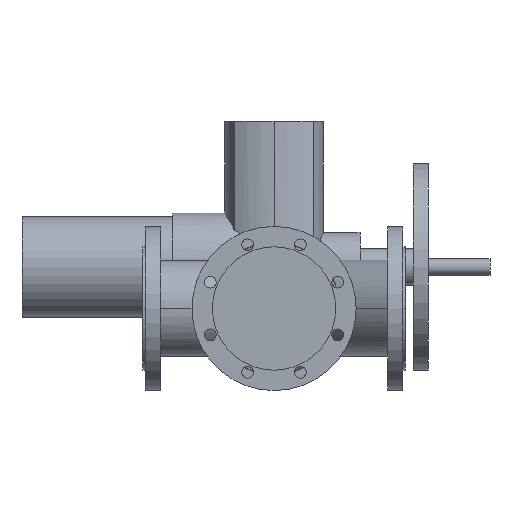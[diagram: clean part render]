
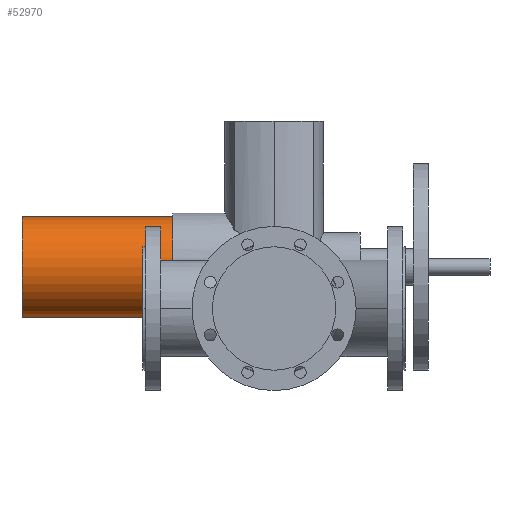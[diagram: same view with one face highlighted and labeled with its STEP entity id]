
A CAD part, front view. The second image highlights one B-rep face of the part: STEP entity #52970.
In plain terms, the highlighted cylindrical face has radius 76.5 mm (diameter 153 mm), a partial arc.
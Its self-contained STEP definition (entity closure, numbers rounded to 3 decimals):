
#52560=CARTESIAN_POINT('',(-69.,674.,63.));
#52570=DIRECTION('',(1.,0.,0.));
#52580=DIRECTION('',(0.,0.,-1.));
#52590=AXIS2_PLACEMENT_3D('',#52560,#52570,#52580);
#52600=CYLINDRICAL_SURFACE('',#52590,76.5);
#52610=CARTESIAN_POINT('',(-69.,674.,-13.5));
#52620=DIRECTION('',(1.,0.,0.));
#52630=VECTOR('',#52620,1.);
#52640=LINE('',#52610,#52630);
#52650=CARTESIAN_POINT('',(-184.,674.,-13.5));
#52660=VERTEX_POINT('',#52650);
#52670=CARTESIAN_POINT('',(46.,674.,-13.5));
#52680=VERTEX_POINT('',#52670);
#52690=EDGE_CURVE('',#52660,#52680,#52640,.T.);
#52700=ORIENTED_EDGE('',*,*,#52690,.T.);
#52710=CARTESIAN_POINT('',(-184.,674.,63.));
#52720=DIRECTION('',(-1.,0.,0.));
#52730=DIRECTION('',(0.,0.,-1.));
#52740=AXIS2_PLACEMENT_3D('',#52710,#52720,#52730);
#52750=CIRCLE('',#52740,76.5);
#52760=CARTESIAN_POINT('',(-184.,674.,139.5));
#52770=VERTEX_POINT('',#52760);
#52780=EDGE_CURVE('',#52660,#52770,#52750,.T.);
#52790=ORIENTED_EDGE('',*,*,#52780,.F.);
#52800=CARTESIAN_POINT('',(-69.,674.,139.5));
#52810=DIRECTION('',(1.,0.,0.));
#52820=VECTOR('',#52810,1.);
#52830=LINE('',#52800,#52820);
#52840=CARTESIAN_POINT('',(46.,674.,139.5));
#52850=VERTEX_POINT('',#52840);
#52860=EDGE_CURVE('',#52770,#52850,#52830,.T.);
#52870=ORIENTED_EDGE('',*,*,#52860,.F.);
#52880=CARTESIAN_POINT('',(46.,674.,63.));
#52890=DIRECTION('',(-1.,0.,0.));
#52900=DIRECTION('',(0.,0.,-1.));
#52910=AXIS2_PLACEMENT_3D('',#52880,#52890,#52900);
#52920=CIRCLE('',#52910,76.5);
#52930=EDGE_CURVE('',#52680,#52850,#52920,.T.);
#52940=ORIENTED_EDGE('',*,*,#52930,.T.);
#52950=EDGE_LOOP('',(#52940,#52870,#52790,#52700));
#52960=FACE_OUTER_BOUND('',#52950,.T.);
#52970=ADVANCED_FACE('',(#52960),#52600,.T.);
